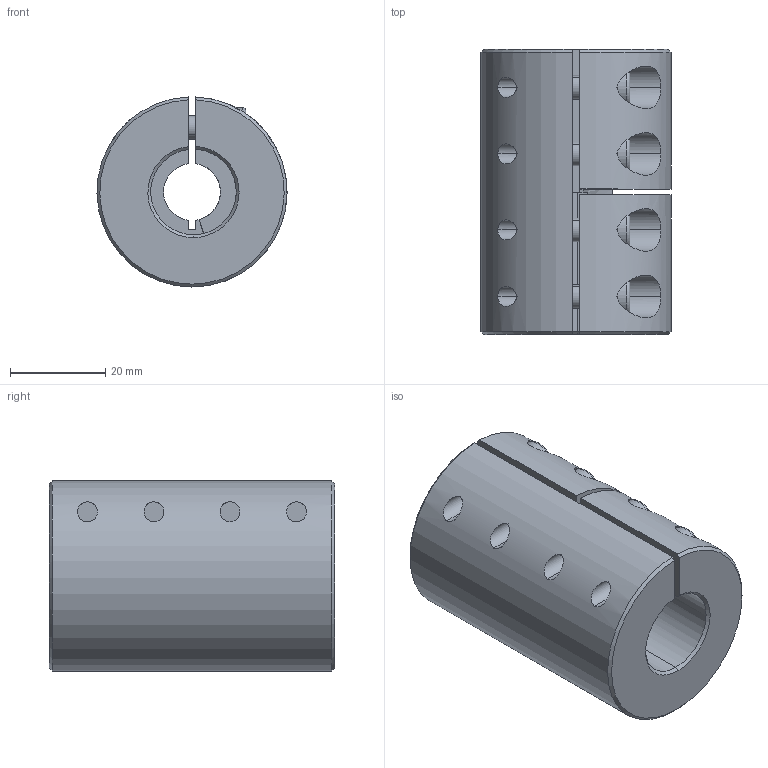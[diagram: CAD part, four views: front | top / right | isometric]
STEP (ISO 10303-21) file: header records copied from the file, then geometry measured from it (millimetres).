
FILE_DESCRIPTION (( 'STEP AP214' ), '1' );
FILE_NAME ('LL-B-D40L60-12-18.STEP', '2022-07-22T00:59:25', ( '' ), ( '' ), 'SwSTEP 2.0', 'SolidWorks 2022', '' );
FILE_SCHEMA (( 'AUTOMOTIVE_DESIGN' ));
Length unit declared in the file: millimetre
Products named in the file (1): LL-B-D40L60-12-18
Bounding box: 40 x 60 x 39.99 mm (x, y, z)
Volume: 61114.8 mm3; surface area: 17380.5 mm2
Topology: 1 solids, 1 shells, 181 faces, 459 edges, 288 vertices
Faces by surface type: plane 87, cylinder 71, cone 15, torus 8
Entity records: 5971 total; most frequent: CARTESIAN_POINT 1511, DIRECTION 967, ORIENTED_EDGE 902, EDGE_CURVE 451, AXIS2_PLACEMENT_3D 376, VERTEX_POINT 288, VECTOR 215, LINE 215
